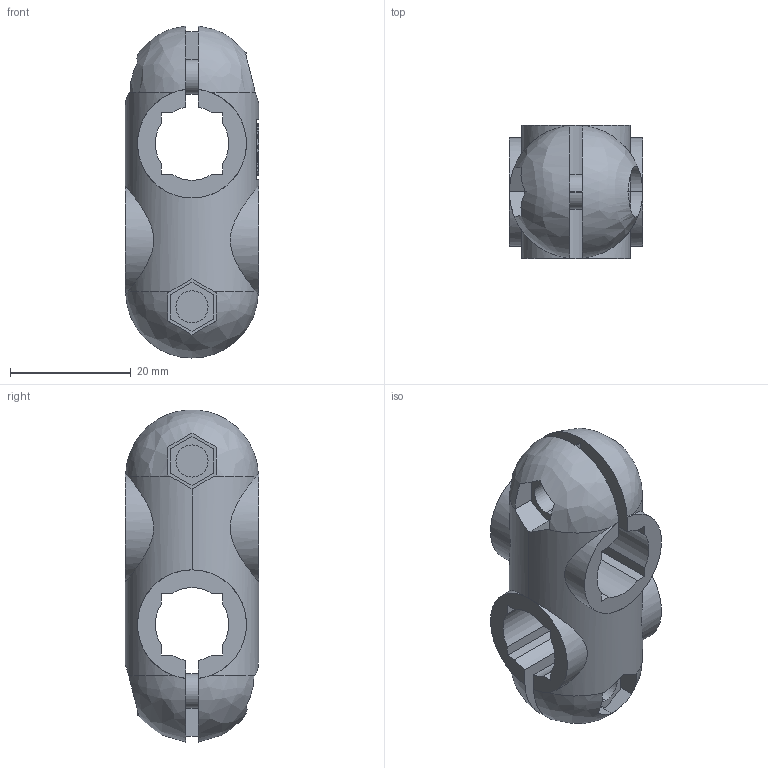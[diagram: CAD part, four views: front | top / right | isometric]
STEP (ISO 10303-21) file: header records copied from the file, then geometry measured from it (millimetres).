
FILE_DESCRIPTION (( 'STEP AP214' ), '1' );
FILE_NAME ('EO 12X12.step', '2017-04-05T07:36:23', ( '' ), ( '' ), 'SwSTEP 2.0', 'SolidWorks 2015', '' );
FILE_SCHEMA (( 'AUTOMOTIVE_DESIGN' ));
Length unit declared in the file: millimetre
Products named in the file (1): EO 12X12
Bounding box: 22 x 22 x 54.88 mm (x, y, z)
Volume: 12070.6 mm3; surface area: 7570.2 mm2
Topology: 1 solids, 1 shells, 393 faces, 1102 edges, 732 vertices
Faces by surface type: plane 349, cylinder 40, bspline 4
Entity records: 13321 total; most frequent: CARTESIAN_POINT 3002, ORIENTED_EDGE 2204, DIRECTION 1914, EDGE_CURVE 1102, LINE 982, VECTOR 982, VERTEX_POINT 732, AXIS2_PLACEMENT_3D 466
